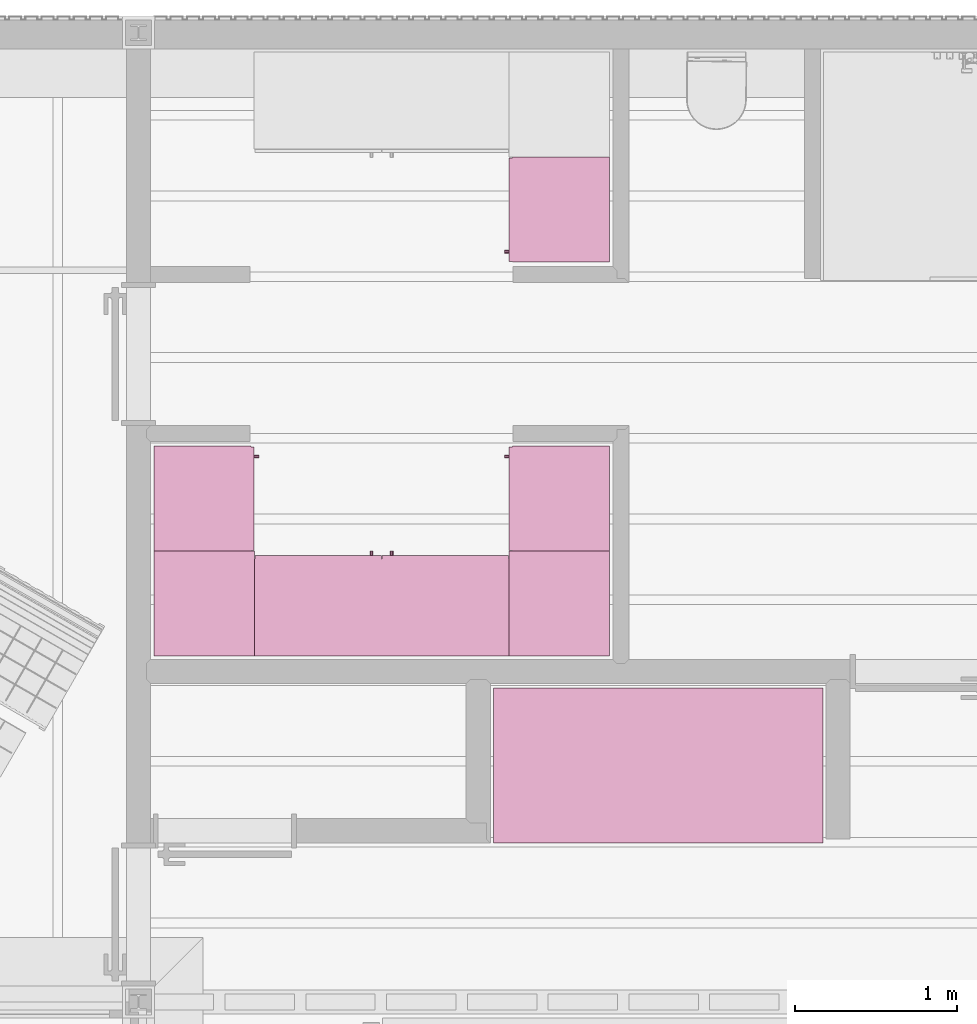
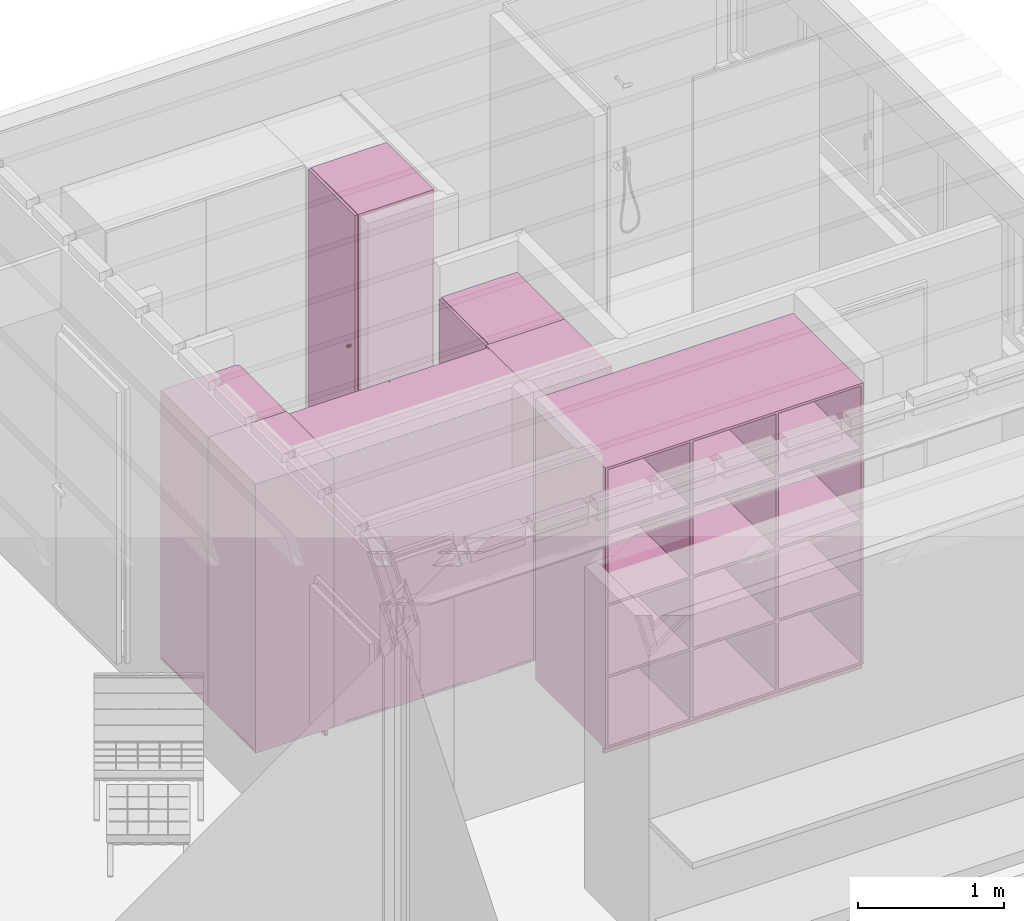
# One storey, part 27 of 28: 7 furniture elements.
"""IFC4X3_ADD2 building model written with IfcOpenShell, lengths in metres."""

from ifc_helpers import new_model, si_unit, direction, frame, frame_2d, origin_with_axes, origin_2d_with_axis, place, context, subcontext, project, spatial, polyline, rectangle, outline, extrude, source, transform, mapped, material, element, save


model = new_model("IFC4X3_ADD2")

# Units and contexts
model_context = context("Model", 3, precision=1e-05, world=origin_with_axes(), true_north=direction((0.0, 1.0)))
body_context = subcontext(model_context, "Body", "Model", "MODEL_VIEW")
ifc_project = project(units=[si_unit("LENGTHUNIT", "METRE"), si_unit("AREAUNIT", "SQUARE_METRE"), si_unit("VOLUMEUNIT", "CUBIC_METRE"), si_unit("PLANEANGLEUNIT", "RADIAN"), si_unit("TIMEUNIT", "SECOND"), si_unit("MASSUNIT", "GRAM")], contexts=[model_context])

# Site, building, storey, space
site_placement = place(None, origin_with_axes())
site = spatial("IfcSite", under=ifc_project, at=site_placement, Name="Site", CompositionType="ELEMENT")
building_placement = place(site_placement, origin_with_axes())
building = spatial("IfcBuilding", under=site, at=building_placement, Name="Default Building")
storey_placement = place(building_placement, frame((0.0, 0.0, -0.08), z_axis=(0.0, 0.0, 1.0), x_axis=(1.0, 0.0, 0.0)))
storey = spatial("IfcBuildingStorey", under=building, at=storey_placement, Name="Gruendung", Elevation=-0.08)
space_1_placement = place(storey_placement, frame((18.925001, 21.90000023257, 0.08), z_axis=(0.0, 0.0, 1.0), x_axis=(0.0, -1.0, 0.0)))
space_1 = spatial("IfcSpace", under=storey, at=space_1_placement, Name="Space", CompositionType="ELEMENT", PredefinedType="SPACE")

# Furniture
ifc_material = material(Name="Default")
shared_shape_1 = source(origin_with_axes(), body_context, "Body", "SweptSolid", [
    extrude(rectangle(XDim=0.6, YDim=0.02, at=frame_2d((0.0, 0.0), x_axis=(0.0, 1.0))), frame((0.01, 0.3, 0.05000000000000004), z_axis=(0.0, 0.0, 1.0), x_axis=(1.0, 0.0, 0.0)), (0.0, 0.0, 1.0), 2.25),
    extrude(rectangle(XDim=0.6, YDim=0.02000000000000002, at=frame_2d((0.0, 0.0), x_axis=(0.0, 1.0))), frame((0.64, 0.3, 0.05000000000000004), z_axis=(0.0, 0.0, 1.0), x_axis=(1.0, 0.0, 0.0)), (0.0, 0.0, 1.0), 2.25),
    extrude(rectangle(XDim=0.61, YDim=0.6, at=origin_2d_with_axis()), frame((0.325, 0.3, 2.28), z_axis=(0.0, 0.0, 1.0), x_axis=(1.0, 0.0, 0.0)), (0.0, 0.0, 1.0), 0.01999999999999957),
    extrude(rectangle(XDim=0.61, YDim=0.6, at=origin_2d_with_axis()), frame((0.325, 0.3, 0.05), z_axis=(0.0, 0.0, 1.0), x_axis=(1.0, 0.0, 0.0)), (0.0, 0.0, 1.0), 0.02),
    extrude(rectangle(XDim=0.61, YDim=0.02000000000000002, at=origin_2d_with_axis()), frame((0.325, 0.589, 0.06999999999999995), z_axis=(0.0, 0.0, 1.0), x_axis=(1.0, 0.0, 0.0)), (0.0, 0.0, 1.0), 2.21),
    extrude(rectangle(XDim=0.64, YDim=0.02, at=origin_2d_with_axis()), frame((0.325, -0.0115, 0.05500000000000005), z_axis=(0.0, 0.0, 1.0), x_axis=(1.0, 0.0, 0.0)), (0.0, 0.0, 1.0), 2.24),
    extrude(rectangle(XDim=0.65, YDim=0.02, at=origin_2d_with_axis()), frame((0.325, 0.06, 0.0), z_axis=(0.0, 0.0, 1.0), x_axis=(1.0, 0.0, 0.0)), (0.0, 0.0, 1.0), 0.05),
    extrude(outline(polyline([(0.00980751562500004, 0.00195048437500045), (0.009951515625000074, 0.0009794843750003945), (0.009999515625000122, 4.843750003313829e-07), (0.009951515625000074, -0.0009795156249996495), (0.00980751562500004, -0.001950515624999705), (0.009568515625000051, -0.002902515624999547), (0.00923851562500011, -0.003826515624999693), (0.008818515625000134, -0.004713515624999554), (0.008314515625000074, -0.005555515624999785), (0.007729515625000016, -0.006343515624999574), (0.007070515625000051, -0.007070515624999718), (0.006343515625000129, -0.007729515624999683), (0.005555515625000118, -0.008314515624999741), (0.004713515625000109, -0.008818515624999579), (0.003826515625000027, -0.009238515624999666), (0.002902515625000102, -0.009568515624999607), (0.001950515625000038, -0.009807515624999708), (0.0009795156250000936, -0.00995151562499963), (-4.843749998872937e-07, -0.009999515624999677), (-0.0009794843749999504, -0.00995151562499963), (-0.001950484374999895, -0.009807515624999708), (-0.002902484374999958, -0.009568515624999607), (-0.003826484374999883, -0.009238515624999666), (-0.004713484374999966, -0.008818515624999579), (-0.005555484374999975, -0.008314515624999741), (-0.006343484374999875, -0.007729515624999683), (-0.007070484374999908, -0.007070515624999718), (-0.007729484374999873, -0.006343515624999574), (-0.008314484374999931, -0.005555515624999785), (-0.00881848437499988, -0.004713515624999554), (-0.009238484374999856, -0.003826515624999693), (-0.009568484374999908, -0.002902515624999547), (-0.009807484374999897, -0.001950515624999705), (-0.00995148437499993, -0.0009795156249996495), (-0.009999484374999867, 4.843750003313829e-07), (-0.00995148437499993, 0.0009794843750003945), (-0.009807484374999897, 0.00195048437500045), (-0.009568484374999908, 0.002902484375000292), (-0.009238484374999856, 0.003826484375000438), (-0.00881848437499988, 0.004713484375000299), (-0.008314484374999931, 0.005555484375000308), (-0.007729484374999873, 0.006343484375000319), (-0.007070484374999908, 0.007070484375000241), (-0.006343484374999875, 0.007729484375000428), (-0.005555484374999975, 0.008314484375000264), (-0.004713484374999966, 0.008818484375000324), (-0.003826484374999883, 0.00923848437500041), (-0.002902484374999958, 0.009568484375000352), (-0.001950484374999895, 0.009807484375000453), (-0.0009794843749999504, 0.009951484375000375), (-4.843749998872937e-07, 0.009999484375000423), (0.0009795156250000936, 0.009951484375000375), (0.001950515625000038, 0.009807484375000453), (0.002902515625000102, 0.009568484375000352), (0.003826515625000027, 0.00923848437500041), (0.004713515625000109, 0.008818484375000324), (0.005555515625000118, 0.008314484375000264), (0.006343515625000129, 0.007729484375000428), (0.007070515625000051, 0.007070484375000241), (0.007729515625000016, 0.006343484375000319), (0.008314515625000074, 0.005555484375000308), (0.008818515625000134, 0.004713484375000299), (0.00923851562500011, 0.003826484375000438), (0.009568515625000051, 0.002902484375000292), (0.00980751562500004, 0.00195048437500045)])), frame((0.06500048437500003, -0.05149999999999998, 1.175000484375), z_axis=(0.0, 1.0, 0.0), x_axis=(1.0, 0.0, 0.0)), (0.0, 0.0, 1.0), 0.02999999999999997),
])
furniture_1_placement = place(storey_placement, frame((21.31556372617, 19.44166666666, 0.08), z_axis=(0.0, 0.0, 1.0), x_axis=(0.0, -1.0, 0.0)))
element("IfcFurniture", 1, at=furniture_1_placement, inside=space_1, material=ifc_material, Name="IfcFurniture", PredefinedType="FILECABINET", context=body_context, shape_type="MappedRepresentation", body=[
    mapped(shared_shape_1, transform((0.0, 0.0, 0.0))),
])
shared_shape_2 = source(origin_with_axes(), body_context, "Body", "SweptSolid", [
    extrude(rectangle(XDim=0.622, YDim=0.02, at=frame_2d((0.0, 0.0), x_axis=(0.0, 1.0))), frame((0.01, 0.311, 0.05000000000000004), z_axis=(0.0, 0.0, 1.0), x_axis=(1.0, 0.0, 0.0)), (0.0, 0.0, 1.0), 2.25),
    extrude(rectangle(XDim=0.622, YDim=0.02000000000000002, at=frame_2d((0.0, 0.0), x_axis=(0.0, 1.0))), frame((0.64, 0.311, 0.05000000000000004), z_axis=(0.0, 0.0, 1.0), x_axis=(1.0, 0.0, 0.0)), (0.0, 0.0, 1.0), 2.25),
    extrude(rectangle(XDim=0.622, YDim=0.61, at=frame_2d((0.0, 0.0), x_axis=(0.0, 1.0))), frame((0.325, 0.311, 2.28), z_axis=(0.0, 0.0, 1.0), x_axis=(1.0, 0.0, 0.0)), (0.0, 0.0, 1.0), 0.01999999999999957),
    extrude(rectangle(XDim=0.622, YDim=0.61, at=frame_2d((0.0, 0.0), x_axis=(0.0, 1.0))), frame((0.325, 0.311, 0.05), z_axis=(0.0, 0.0, 1.0), x_axis=(1.0, 0.0, 0.0)), (0.0, 0.0, 1.0), 0.02),
    extrude(rectangle(XDim=0.61, YDim=0.02000000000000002, at=origin_2d_with_axis()), frame((0.325, 0.611, 0.06999999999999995), z_axis=(0.0, 0.0, 1.0), x_axis=(1.0, 0.0, 0.0)), (0.0, 0.0, 1.0), 2.21),
    extrude(rectangle(XDim=0.65, YDim=0.02, at=origin_2d_with_axis()), frame((0.325, 0.06, 0.0), z_axis=(0.0, 0.0, 1.0), x_axis=(1.0, 0.0, 0.0)), (0.0, 0.0, 1.0), 0.05),
])
furniture_2_placement = place(storey_placement, frame((21.29356372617, 18.79166666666, 0.08), z_axis=(0.0, 0.0, 1.0), x_axis=(0.0, -1.0, 0.0)))
element("IfcFurniture", 2, at=furniture_2_placement, inside=space_1, material=ifc_material, Name="IfcFurniture", PredefinedType="FILECABINET", context=body_context, shape_type="MappedRepresentation", body=[
    mapped(shared_shape_2, transform((0.0, 0.0, 0.0))),
])

# Space
space_2_placement = place(storey_placement, frame((18.92500139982, 15.096574, 0.08), z_axis=(0.0, 0.0, 1.0), x_axis=(1.0, 0.0, 0.0)))
space_2 = spatial("IfcSpace", under=storey, at=space_2_placement, Name="Space", CompositionType="ELEMENT", PredefinedType="SPACE")

# Furniture
shared_shape_3 = source(origin_with_axes(), body_context, "Body", "SweptSolid", [
    extrude(rectangle(XDim=0.96, YDim=0.02, at=frame_2d((0.0, 0.0), x_axis=(0.0, 1.0))), frame((0.01, 0.48, 0.05000000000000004), z_axis=(0.0, 0.0, 1.0), x_axis=(1.0, 0.0, 0.0)), (0.0, 0.0, 1.0), 2.350000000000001),
    extrude(rectangle(XDim=0.96, YDim=0.02000000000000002, at=frame_2d((0.0, 0.0), x_axis=(0.0, 1.0))), frame((2.03, 0.48, 0.05000000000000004), z_axis=(0.0, 0.0, 1.0), x_axis=(1.0, 0.0, 0.0)), (0.0, 0.0, 1.0), 2.350000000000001),
    extrude(rectangle(XDim=2.0, YDim=0.96, at=origin_2d_with_axis()), frame((1.02, 0.48, 2.38), z_axis=(0.0, 0.0, 1.0), x_axis=(1.0, 0.0, 0.0)), (0.0, 0.0, 1.0), 0.02000000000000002),
    extrude(rectangle(XDim=2.0, YDim=0.96, at=origin_2d_with_axis()), frame((1.02, 0.48, 0.05), z_axis=(0.0, 0.0, 1.0), x_axis=(1.0, 0.0, 0.0)), (0.0, 0.0, 1.0), 0.02),
    extrude(rectangle(XDim=0.9390000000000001, YDim=0.01999999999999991, at=frame_2d((0.0, 0.0), x_axis=(0.0, 1.0))), frame((0.6799999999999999, 0.4695, 0.06999999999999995), z_axis=(0.0, 0.0, 1.0), x_axis=(1.0, 0.0, 0.0)), (0.0, 0.0, 1.0), 2.31),
    extrude(rectangle(XDim=0.9390000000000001, YDim=0.02000000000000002, at=frame_2d((0.0, 0.0), x_axis=(0.0, 1.0))), frame((1.36, 0.4695, 0.06999999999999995), z_axis=(0.0, 0.0, 1.0), x_axis=(1.0, 0.0, 0.0)), (0.0, 0.0, 1.0), 2.31),
    extrude(rectangle(XDim=0.9390000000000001, YDim=0.649999, at=frame_2d((0.0, 0.0), x_axis=(0.0, 1.0))), frame((0.3450005, 0.4695, 0.64), z_axis=(0.0, 0.0, 1.0), x_axis=(1.0, 0.0, 0.0)), (0.0, 0.0, 1.0), 0.02000000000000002),
    extrude(rectangle(XDim=0.9390000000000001, YDim=0.649999, at=frame_2d((0.0, 0.0), x_axis=(0.0, 1.0))), frame((0.3450005, 0.4695, 1.24), z_axis=(0.0, 0.0, 1.0), x_axis=(1.0, 0.0, 0.0)), (0.0, 0.0, 1.0), 0.02000000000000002),
    extrude(rectangle(XDim=0.9390000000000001, YDim=0.649999, at=frame_2d((0.0, 0.0), x_axis=(0.0, 1.0))), frame((0.3450005, 0.4695, 1.84), z_axis=(0.0, 0.0, 1.0), x_axis=(1.0, 0.0, 0.0)), (0.0, 0.0, 1.0), 0.02000000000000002),
    extrude(rectangle(XDim=0.9390000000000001, YDim=0.659999, at=frame_2d((0.0, 0.0), x_axis=(0.0, 1.0))), frame((1.0200005, 0.4695, 0.64), z_axis=(0.0, 0.0, 1.0), x_axis=(1.0, 0.0, 0.0)), (0.0, 0.0, 1.0), 0.02000000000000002),
    extrude(rectangle(XDim=0.9390000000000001, YDim=0.659999, at=frame_2d((0.0, 0.0), x_axis=(0.0, 1.0))), frame((1.0200005, 0.4695, 1.24), z_axis=(0.0, 0.0, 1.0), x_axis=(1.0, 0.0, 0.0)), (0.0, 0.0, 1.0), 0.02000000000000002),
    extrude(rectangle(XDim=0.9390000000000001, YDim=0.659999, at=frame_2d((0.0, 0.0), x_axis=(0.0, 1.0))), frame((1.0200005, 0.4695, 1.84), z_axis=(0.0, 0.0, 1.0), x_axis=(1.0, 0.0, 0.0)), (0.0, 0.0, 1.0), 0.02000000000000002),
    extrude(rectangle(XDim=0.9390000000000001, YDim=0.649999, at=frame_2d((0.0, 0.0), x_axis=(0.0, 1.0))), frame((1.6950005, 0.4695, 0.64), z_axis=(0.0, 0.0, 1.0), x_axis=(1.0, 0.0, 0.0)), (0.0, 0.0, 1.0), 0.02000000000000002),
    extrude(rectangle(XDim=0.9390000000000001, YDim=0.649999, at=frame_2d((0.0, 0.0), x_axis=(0.0, 1.0))), frame((1.6950005, 0.4695, 1.24), z_axis=(0.0, 0.0, 1.0), x_axis=(1.0, 0.0, 0.0)), (0.0, 0.0, 1.0), 0.02000000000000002),
    extrude(rectangle(XDim=0.9390000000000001, YDim=0.649999, at=frame_2d((0.0, 0.0), x_axis=(0.0, 1.0))), frame((1.6950005, 0.4695, 1.84), z_axis=(0.0, 0.0, 1.0), x_axis=(1.0, 0.0, 0.0)), (0.0, 0.0, 1.0), 0.02000000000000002),
    extrude(rectangle(XDim=2.0, YDim=0.02000000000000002, at=origin_2d_with_axis()), frame((1.02, 0.9490000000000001, 0.06999999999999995), z_axis=(0.0, 0.0, 1.0), x_axis=(1.0, 0.0, 0.0)), (0.0, 0.0, 1.0), 2.31),
    extrude(rectangle(XDim=2.04, YDim=0.02, at=origin_2d_with_axis()), frame((1.02, 0.03, 0.0), z_axis=(0.0, 0.0, 1.0), x_axis=(1.0, 0.0, 0.0)), (0.0, 0.0, 1.0), 0.05),
])
furniture_3_placement = place(storey_placement, frame((21.19625, 16.98555080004, 0.08), z_axis=(0.0, 0.0, 1.0), x_axis=(1.0, 0.0, 0.0)))
element("IfcFurniture", 3, at=furniture_3_placement, inside=space_2, material=ifc_material, Name="Shelf", PredefinedType="NOTDEFINED", context=body_context, shape_type="MappedRepresentation", body=[
    mapped(shared_shape_3, transform((0.0, 0.0, 0.0))),
])
shared_shape_4 = source(origin_with_axes(), body_context, "Body", "SweptSolid", [
    extrude(rectangle(XDim=0.6, YDim=0.02, at=frame_2d((0.0, 0.0), x_axis=(0.0, 1.0))), frame((0.01, 0.3, 0.05000000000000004), z_axis=(0.0, 0.0, 1.0), x_axis=(1.0, 0.0, 0.0)), (0.0, 0.0, 1.0), 2.25),
    extrude(rectangle(XDim=0.6, YDim=0.02000000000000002, at=frame_2d((0.0, 0.0), x_axis=(0.0, 1.0))), frame((0.64, 0.3, 0.05000000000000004), z_axis=(0.0, 0.0, 1.0), x_axis=(1.0, 0.0, 0.0)), (0.0, 0.0, 1.0), 2.25),
    extrude(rectangle(XDim=0.61, YDim=0.6, at=origin_2d_with_axis()), frame((0.325, 0.3, 2.28), z_axis=(0.0, 0.0, 1.0), x_axis=(1.0, 0.0, 0.0)), (0.0, 0.0, 1.0), 0.01999999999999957),
    extrude(rectangle(XDim=0.61, YDim=0.6, at=origin_2d_with_axis()), frame((0.325, 0.3, 0.05), z_axis=(0.0, 0.0, 1.0), x_axis=(1.0, 0.0, 0.0)), (0.0, 0.0, 1.0), 0.02),
    extrude(rectangle(XDim=0.61, YDim=0.02000000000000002, at=origin_2d_with_axis()), frame((0.325, 0.589, 0.06999999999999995), z_axis=(0.0, 0.0, 1.0), x_axis=(1.0, 0.0, 0.0)), (0.0, 0.0, 1.0), 2.21),
    extrude(rectangle(XDim=0.64, YDim=0.02, at=origin_2d_with_axis()), frame((0.325, -0.0115, 0.05500000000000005), z_axis=(0.0, 0.0, 1.0), x_axis=(1.0, 0.0, 0.0)), (0.0, 0.0, 1.0), 2.24),
    extrude(rectangle(XDim=0.65, YDim=0.02, at=origin_2d_with_axis()), frame((0.325, 0.06, 0.0), z_axis=(0.0, 0.0, 1.0), x_axis=(1.0, 0.0, 0.0)), (0.0, 0.0, 1.0), 0.05),
    extrude(outline(polyline([(0.00980751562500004, 0.00195048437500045), (0.009951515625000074, 0.0009794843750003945), (0.009999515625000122, 4.843750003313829e-07), (0.009951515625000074, -0.0009795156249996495), (0.00980751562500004, -0.001950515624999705), (0.009568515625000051, -0.002902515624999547), (0.00923851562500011, -0.003826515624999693), (0.008818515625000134, -0.004713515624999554), (0.008314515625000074, -0.005555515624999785), (0.007729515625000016, -0.006343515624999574), (0.007070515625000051, -0.007070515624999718), (0.006343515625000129, -0.007729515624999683), (0.005555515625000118, -0.008314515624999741), (0.004713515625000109, -0.008818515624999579), (0.003826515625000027, -0.009238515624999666), (0.002902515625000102, -0.009568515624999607), (0.001950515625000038, -0.009807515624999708), (0.0009795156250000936, -0.00995151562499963), (-4.843749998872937e-07, -0.009999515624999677), (-0.0009794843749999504, -0.00995151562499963), (-0.001950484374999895, -0.009807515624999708), (-0.002902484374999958, -0.009568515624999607), (-0.003826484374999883, -0.009238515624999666), (-0.004713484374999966, -0.008818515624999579), (-0.005555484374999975, -0.008314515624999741), (-0.006343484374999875, -0.007729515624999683), (-0.007070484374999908, -0.007070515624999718), (-0.007729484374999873, -0.006343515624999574), (-0.008314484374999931, -0.005555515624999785), (-0.00881848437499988, -0.004713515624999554), (-0.009238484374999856, -0.003826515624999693), (-0.009568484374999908, -0.002902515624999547), (-0.009807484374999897, -0.001950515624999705), (-0.00995148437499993, -0.0009795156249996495), (-0.009999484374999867, 4.843750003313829e-07), (-0.00995148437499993, 0.0009794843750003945), (-0.009807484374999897, 0.00195048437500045), (-0.009568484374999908, 0.002902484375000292), (-0.009238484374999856, 0.003826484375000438), (-0.00881848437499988, 0.004713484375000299), (-0.008314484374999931, 0.005555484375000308), (-0.007729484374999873, 0.006343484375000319), (-0.007070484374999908, 0.007070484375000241), (-0.006343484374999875, 0.007729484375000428), (-0.005555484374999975, 0.008314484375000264), (-0.004713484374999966, 0.008818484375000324), (-0.003826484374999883, 0.00923848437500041), (-0.002902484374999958, 0.009568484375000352), (-0.001950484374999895, 0.009807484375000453), (-0.0009794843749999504, 0.009951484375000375), (-4.843749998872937e-07, 0.009999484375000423), (0.0009795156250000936, 0.009951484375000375), (0.001950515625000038, 0.009807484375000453), (0.002902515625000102, 0.009568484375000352), (0.003826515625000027, 0.00923848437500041), (0.004713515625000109, 0.008818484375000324), (0.005555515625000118, 0.008314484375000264), (0.006343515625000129, 0.007729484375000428), (0.007070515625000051, 0.007070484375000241), (0.007729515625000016, 0.006343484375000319), (0.008314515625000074, 0.005555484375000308), (0.008818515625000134, 0.004713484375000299), (0.00923851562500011, 0.003826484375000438), (0.009568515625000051, 0.002902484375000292), (0.00980751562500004, 0.00195048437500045)])), frame((0.06500048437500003, -0.05149999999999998, 1.175000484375), z_axis=(0.0, 1.0, 0.0), x_axis=(1.0, 0.0, 0.0)), (0.0, 0.0, 1.0), 0.02999999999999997),
])
furniture_4_placement = place(storey_placement, frame((21.31556372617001, 20.58, 0.08), z_axis=(0.0, 0.0, 1.0), x_axis=(0.0, 1.0, 0.0)))
element("IfcFurniture", 4, at=furniture_4_placement, inside=space_1, material=ifc_material, Name="IfcFurniture", PredefinedType="FILECABINET", context=body_context, shape_type="MappedRepresentation", body=[
    mapped(shared_shape_4, transform((0.0, 0.0, 0.0), x_axis=(1.0, 0.0, 0.0), y_axis=(0.0, -1.0, 0.0), z_axis=(0.0, 0.0, 1.0), scale=0.9999999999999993)),
])
furniture_5_placement = place(storey_placement, frame((19.69456372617, 19.44166666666, 0.08), z_axis=(0.0, 0.0, 1.0), x_axis=(0.0, -1.0, 0.0)))
element("IfcFurniture", 5, at=furniture_5_placement, inside=space_1, material=ifc_material, Name="IfcFurniture", PredefinedType="FILECABINET", context=body_context, shape_type="MappedRepresentation", body=[
    mapped(shared_shape_4, transform((0.0, 0.0, 0.0), x_axis=(1.0, 0.0, 0.0), y_axis=(0.0, -1.0, 0.0), z_axis=(0.0, 0.0, 1.0), scale=1.0)),
])
shared_shape_5 = source(origin_with_axes(), body_context, "Body", "SweptSolid", [
    extrude(rectangle(XDim=0.622, YDim=0.02, at=frame_2d((0.0, 0.0), x_axis=(0.0, 1.0))), frame((0.01, 0.311, 0.05000000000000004), z_axis=(0.0, 0.0, 1.0), x_axis=(1.0, 0.0, 0.0)), (0.0, 0.0, 1.0), 2.25),
    extrude(rectangle(XDim=0.622, YDim=0.02000000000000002, at=frame_2d((0.0, 0.0), x_axis=(0.0, 1.0))), frame((0.64, 0.311, 0.05000000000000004), z_axis=(0.0, 0.0, 1.0), x_axis=(1.0, 0.0, 0.0)), (0.0, 0.0, 1.0), 2.25),
    extrude(rectangle(XDim=0.622, YDim=0.61, at=frame_2d((0.0, 0.0), x_axis=(0.0, 1.0))), frame((0.325, 0.311, 2.28), z_axis=(0.0, 0.0, 1.0), x_axis=(1.0, 0.0, 0.0)), (0.0, 0.0, 1.0), 0.01999999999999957),
    extrude(rectangle(XDim=0.622, YDim=0.61, at=frame_2d((0.0, 0.0), x_axis=(0.0, 1.0))), frame((0.325, 0.311, 0.05), z_axis=(0.0, 0.0, 1.0), x_axis=(1.0, 0.0, 0.0)), (0.0, 0.0, 1.0), 0.02),
    extrude(rectangle(XDim=0.61, YDim=0.02000000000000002, at=origin_2d_with_axis()), frame((0.325, 0.611, 0.06999999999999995), z_axis=(0.0, 0.0, 1.0), x_axis=(1.0, 0.0, 0.0)), (0.0, 0.0, 1.0), 2.21),
    extrude(rectangle(XDim=0.65, YDim=0.02, at=origin_2d_with_axis()), frame((0.325, 0.06, 0.0), z_axis=(0.0, 0.0, 1.0), x_axis=(1.0, 0.0, 0.0)), (0.0, 0.0, 1.0), 0.05),
])
furniture_6_placement = place(storey_placement, frame((19.71656372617, 18.79166666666, 0.08), z_axis=(0.0, 0.0, 1.0), x_axis=(0.0, -1.0, 0.0)))
element("IfcFurniture", 6, at=furniture_6_placement, inside=space_1, material=ifc_material, Name="IfcFurniture", PredefinedType="FILECABINET", context=body_context, shape_type="MappedRepresentation", body=[
    mapped(shared_shape_5, transform((0.0, 0.0, 0.0), x_axis=(1.0, 0.0, 0.0), y_axis=(0.0, -1.0, 0.0), z_axis=(0.0, 0.0, 1.0), scale=1.0)),
])
shared_shape_6 = source(origin_with_axes(), body_context, "Body", "SweptSolid", [
    extrude(rectangle(XDim=0.6, YDim=0.02, at=frame_2d((0.0, 0.0), x_axis=(0.0, 1.0))), frame((0.01, 0.3, 0.05000000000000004), z_axis=(0.0, 0.0, 1.0), x_axis=(1.0, 0.0, 0.0)), (0.0, 0.0, 1.0), 2.25),
    extrude(rectangle(XDim=0.6, YDim=0.02000000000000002, at=frame_2d((0.0, 0.0), x_axis=(0.0, 1.0))), frame((1.568, 0.3, 0.05000000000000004), z_axis=(0.0, 0.0, 1.0), x_axis=(1.0, 0.0, 0.0)), (0.0, 0.0, 1.0), 2.25),
    extrude(rectangle(XDim=1.538, YDim=0.6, at=origin_2d_with_axis()), frame((0.789, 0.3, 2.28), z_axis=(0.0, 0.0, 1.0), x_axis=(1.0, 0.0, 0.0)), (0.0, 0.0, 1.0), 0.01999999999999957),
    extrude(rectangle(XDim=1.538, YDim=0.6, at=origin_2d_with_axis()), frame((0.789, 0.3, 0.05), z_axis=(0.0, 0.0, 1.0), x_axis=(1.0, 0.0, 0.0)), (0.0, 0.0, 1.0), 0.02),
    extrude(rectangle(XDim=1.538, YDim=0.02000000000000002, at=origin_2d_with_axis()), frame((0.789, 0.589, 0.06999999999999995), z_axis=(0.0, 0.0, 1.0), x_axis=(1.0, 0.0, 0.0)), (0.0, 0.0, 1.0), 2.21),
    extrude(rectangle(XDim=0.7815, YDim=0.02, at=origin_2d_with_axis()), frame((0.3957499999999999, -0.0115, 0.05500000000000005), z_axis=(0.0, 0.0, 1.0), x_axis=(1.0, 0.0, 0.0)), (0.0, 0.0, 1.0), 2.24),
    extrude(rectangle(XDim=0.7815, YDim=0.02, at=origin_2d_with_axis()), frame((1.18225, -0.0115, 0.05500000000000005), z_axis=(0.0, 0.0, 1.0), x_axis=(1.0, 0.0, 0.0)), (0.0, 0.0, 1.0), 2.24),
    extrude(rectangle(XDim=1.578, YDim=0.02, at=origin_2d_with_axis()), frame((0.789, 0.06, 0.0), z_axis=(0.0, 0.0, 1.0), x_axis=(1.0, 0.0, 0.0)), (0.0, 0.0, 1.0), 0.05),
    extrude(outline(polyline([(0.00980751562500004, 0.00195048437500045), (0.009951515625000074, 0.0009794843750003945), (0.009999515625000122, 4.843750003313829e-07), (0.009951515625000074, -0.0009795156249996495), (0.00980751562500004, -0.001950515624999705), (0.009568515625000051, -0.002902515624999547), (0.00923851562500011, -0.003826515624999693), (0.008818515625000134, -0.004713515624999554), (0.008314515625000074, -0.005555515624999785), (0.007729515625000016, -0.006343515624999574), (0.007070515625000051, -0.007070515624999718), (0.006343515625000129, -0.007729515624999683), (0.005555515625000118, -0.008314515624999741), (0.004713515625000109, -0.008818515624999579), (0.003826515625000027, -0.009238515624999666), (0.002902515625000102, -0.009568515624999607), (0.001950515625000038, -0.009807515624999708), (0.0009795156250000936, -0.00995151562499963), (-4.843749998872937e-07, -0.009999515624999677), (-0.0009794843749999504, -0.00995151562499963), (-0.001950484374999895, -0.009807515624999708), (-0.002902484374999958, -0.009568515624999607), (-0.003826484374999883, -0.009238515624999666), (-0.004713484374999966, -0.008818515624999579), (-0.005555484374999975, -0.008314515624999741), (-0.006343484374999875, -0.007729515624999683), (-0.007070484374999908, -0.007070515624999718), (-0.007729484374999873, -0.006343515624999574), (-0.008314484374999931, -0.005555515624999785), (-0.00881848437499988, -0.004713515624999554), (-0.009238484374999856, -0.003826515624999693), (-0.009568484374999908, -0.002902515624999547), (-0.009807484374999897, -0.001950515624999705), (-0.00995148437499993, -0.0009795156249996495), (-0.009999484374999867, 4.843750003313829e-07), (-0.00995148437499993, 0.0009794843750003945), (-0.009807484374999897, 0.00195048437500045), (-0.009568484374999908, 0.002902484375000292), (-0.009238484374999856, 0.003826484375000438), (-0.00881848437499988, 0.004713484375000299), (-0.008314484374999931, 0.005555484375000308), (-0.007729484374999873, 0.006343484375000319), (-0.007070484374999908, 0.007070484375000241), (-0.006343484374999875, 0.007729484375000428), (-0.005555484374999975, 0.008314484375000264), (-0.004713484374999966, 0.008818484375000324), (-0.003826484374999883, 0.00923848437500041), (-0.002902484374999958, 0.009568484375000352), (-0.001950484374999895, 0.009807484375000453), (-0.0009794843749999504, 0.009951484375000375), (-4.843749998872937e-07, 0.009999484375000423), (0.0009795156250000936, 0.009951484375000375), (0.001950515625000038, 0.009807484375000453), (0.002902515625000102, 0.009568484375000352), (0.003826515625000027, 0.00923848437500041), (0.004713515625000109, 0.008818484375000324), (0.005555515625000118, 0.008314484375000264), (0.006343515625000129, 0.007729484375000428), (0.007070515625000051, 0.007070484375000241), (0.007729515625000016, 0.006343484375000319), (0.008314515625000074, 0.005555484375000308), (0.008818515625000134, 0.004713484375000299), (0.00923851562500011, 0.003826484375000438), (0.009568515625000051, 0.002902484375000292), (0.00980751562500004, 0.00195048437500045)])), frame((0.7265004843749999, -0.05149999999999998, 1.175000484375), z_axis=(0.0, 1.0, 0.0), x_axis=(1.0, 0.0, 0.0)), (0.0, 0.0, 1.0), 0.02999999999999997),
    extrude(outline(polyline([(0.00980751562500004, 0.00195048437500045), (0.009951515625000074, 0.0009794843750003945), (0.009999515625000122, 4.843750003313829e-07), (0.009951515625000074, -0.0009795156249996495), (0.00980751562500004, -0.001950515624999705), (0.009568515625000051, -0.002902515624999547), (0.00923851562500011, -0.003826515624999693), (0.008818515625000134, -0.004713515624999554), (0.008314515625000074, -0.005555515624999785), (0.007729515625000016, -0.006343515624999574), (0.007070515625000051, -0.007070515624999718), (0.006343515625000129, -0.007729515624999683), (0.005555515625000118, -0.008314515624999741), (0.004713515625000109, -0.008818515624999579), (0.003826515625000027, -0.009238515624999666), (0.002902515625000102, -0.009568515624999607), (0.001950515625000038, -0.009807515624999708), (0.0009795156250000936, -0.00995151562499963), (-4.843749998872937e-07, -0.009999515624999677), (-0.0009794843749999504, -0.00995151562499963), (-0.001950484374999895, -0.009807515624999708), (-0.002902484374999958, -0.009568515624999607), (-0.003826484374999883, -0.009238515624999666), (-0.004713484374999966, -0.008818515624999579), (-0.005555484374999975, -0.008314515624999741), (-0.006343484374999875, -0.007729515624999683), (-0.007070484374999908, -0.007070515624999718), (-0.007729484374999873, -0.006343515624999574), (-0.008314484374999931, -0.005555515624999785), (-0.00881848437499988, -0.004713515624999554), (-0.009238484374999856, -0.003826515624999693), (-0.009568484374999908, -0.002902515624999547), (-0.009807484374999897, -0.001950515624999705), (-0.00995148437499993, -0.0009795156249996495), (-0.009999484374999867, 4.843750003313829e-07), (-0.00995148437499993, 0.0009794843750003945), (-0.009807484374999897, 0.00195048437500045), (-0.009568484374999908, 0.002902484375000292), (-0.009238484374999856, 0.003826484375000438), (-0.00881848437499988, 0.004713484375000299), (-0.008314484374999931, 0.005555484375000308), (-0.007729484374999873, 0.006343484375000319), (-0.007070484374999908, 0.007070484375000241), (-0.006343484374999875, 0.007729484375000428), (-0.005555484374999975, 0.008314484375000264), (-0.004713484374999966, 0.008818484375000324), (-0.003826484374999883, 0.00923848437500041), (-0.002902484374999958, 0.009568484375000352), (-0.001950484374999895, 0.009807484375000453), (-0.0009794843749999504, 0.009951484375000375), (-4.843749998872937e-07, 0.009999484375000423), (0.0009795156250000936, 0.009951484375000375), (0.001950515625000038, 0.009807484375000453), (0.002902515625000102, 0.009568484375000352), (0.003826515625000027, 0.00923848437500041), (0.004713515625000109, 0.008818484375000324), (0.005555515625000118, 0.008314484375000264), (0.006343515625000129, 0.007729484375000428), (0.007070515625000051, 0.007070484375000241), (0.007729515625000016, 0.006343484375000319), (0.008314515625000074, 0.005555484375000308), (0.008818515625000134, 0.004713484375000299), (0.00923851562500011, 0.003826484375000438), (0.009568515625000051, 0.002902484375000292), (0.00980751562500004, 0.00195048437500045)])), frame((0.851500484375, -0.05149999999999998, 1.175000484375), z_axis=(0.0, 1.0, 0.0), x_axis=(1.0, 0.0, 0.0)), (0.0, 0.0, 1.0), 0.02999999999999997),
])
furniture_7_placement = place(storey_placement, frame((19.71606372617, 18.74166666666, 0.08), z_axis=(0.0, 0.0, 1.0), x_axis=(1.0, 0.0, 0.0)))
element("IfcFurniture", 7, at=furniture_7_placement, inside=space_1, material=ifc_material, Name="IfcFurniture", PredefinedType="FILECABINET", context=body_context, shape_type="MappedRepresentation", body=[
    mapped(shared_shape_6, transform((0.0, 0.0, 0.0), x_axis=(1.0, 0.0, 0.0), y_axis=(0.0, -1.0, 0.0), z_axis=(0.0, 0.0, 1.0), scale=1.0)),
])

save(model, "model.ifc")
